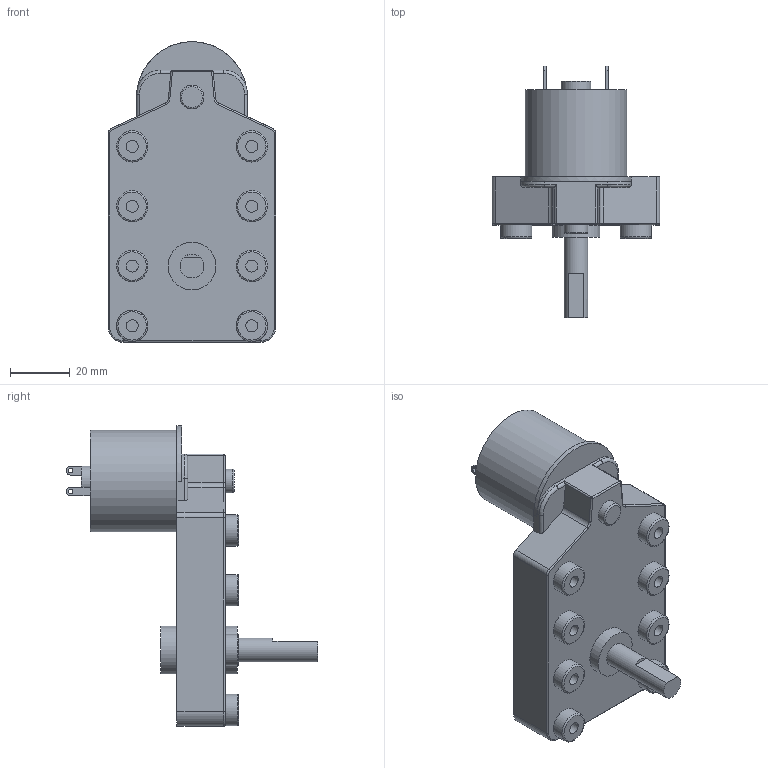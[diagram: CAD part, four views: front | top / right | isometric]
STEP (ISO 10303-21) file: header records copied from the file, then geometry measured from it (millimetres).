
FILE_DESCRIPTION((''),'2;1');
FILE_NAME('E:\2공장-도면\3D\표준형 3D(민규)\1공장 step\KGE-3429 F TYPE.stp','2015-02-26T12:14:13',('AHN'),(''),'Autodesk Inventor 2012','Autodesk Inventor 2012','');
FILE_SCHEMA(('CONFIG_CONTROL_DESIGN'));
Length unit declared in the file: millimetre
Products named in the file (1): KGE-3429 F타입
Bounding box: 56 x 84.1 x 100.5 mm (x, y, z)
Volume: 105557.1 mm3; surface area: 20559.7 mm2
Topology: 1 solids, 1 shells, 125 faces, 259 edges, 162 vertices
Faces by surface type: plane 53, cylinder 53, torus 17, sphere 2
Full cylindrical faces by diameter (mm): 1.5 x2, 2.2 x4, 4 x8, 8 x2, 10 x1, 10.5 x8, 16 x2, 34 x1
Entity records: 3175 total; most frequent: DIRECTION 593, CARTESIAN_POINT 542, ORIENTED_EDGE 438, AXIS2_PLACEMENT_3D 252, EDGE_CURVE 219, EDGE_LOOP 192, VERTEX_POINT 159, FACE_OUTER_BOUND 125
